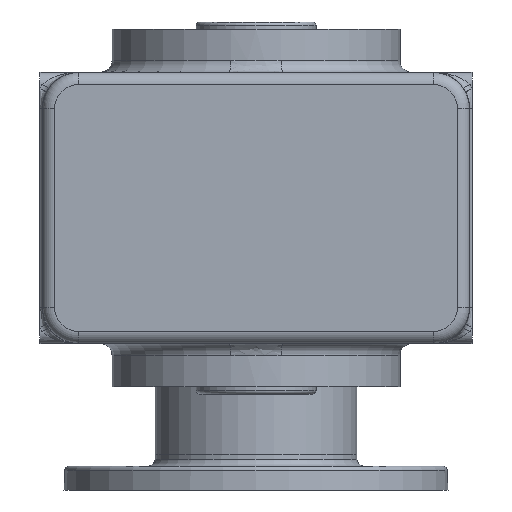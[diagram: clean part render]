
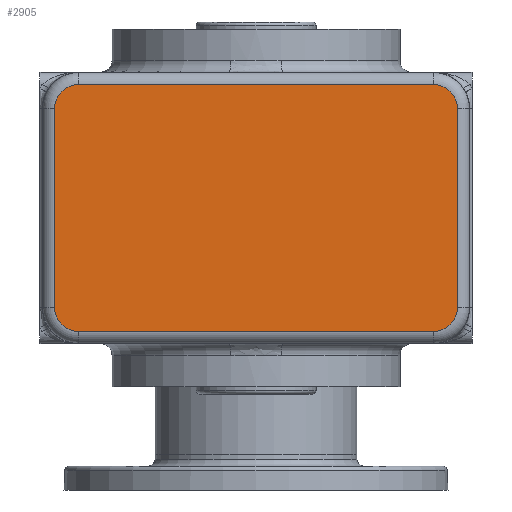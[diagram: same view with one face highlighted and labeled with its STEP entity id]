
A CAD part, front view. The second image highlights one B-rep face of the part: STEP entity #2905.
In plain terms, the highlighted planar face has unit normal (0, -1, 0).
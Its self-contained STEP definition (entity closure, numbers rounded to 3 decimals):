
#2864 = VERTEX_POINT ( 'NONE', #41360 ) ;
#2877 = EDGE_CURVE ( 'NONE', #2916, #2864, #41319, .T. ) ;
#2888 = VERTEX_POINT ( 'NONE', #41423 ) ;
#2905 = ADVANCED_FACE ( 'NONE', ( #41535 ), #41530, .T. ) ;
#2906 = EDGE_LOOP ( 'NONE', ( #2907, #2917, #2939, #2928, #2997, #2930, #2962, #3001 ) ) ;
#2907 = ORIENTED_EDGE ( 'NONE', *, *, #2908, .T. ) ;
#2908 = EDGE_CURVE ( 'NONE', #2909, #2916, #41517, .T. ) ;
#2909 = VERTEX_POINT ( 'NONE', #41510 ) ;
#2916 = VERTEX_POINT ( 'NONE', #41483 ) ;
#2917 = ORIENTED_EDGE ( 'NONE', *, *, #2877, .T. ) ;
#2925 = EDGE_CURVE ( 'NONE', #2947, #2909, #41603, .T. ) ;
#2927 = EDGE_CURVE ( 'NONE', #2941, #2888, #41589, .T. ) ;
#2928 = ORIENTED_EDGE ( 'NONE', *, *, #2927, .T. ) ;
#2930 = ORIENTED_EDGE ( 'NONE', *, *, #2931, .T. ) ;
#2931 = EDGE_CURVE ( 'NONE', #2948, #2932, #41578, .T. ) ;
#2932 = VERTEX_POINT ( 'NONE', #41569 ) ;
#2939 = ORIENTED_EDGE ( 'NONE', *, *, #2940, .T. ) ;
#2940 = EDGE_CURVE ( 'NONE', #2864, #2941, #41694, .T. ) ;
#2941 = VERTEX_POINT ( 'NONE', #41687 ) ;
#2946 = EDGE_CURVE ( 'NONE', #2932, #2947, #41678, .T. ) ;
#2947 = VERTEX_POINT ( 'NONE', #41660 ) ;
#2948 = VERTEX_POINT ( 'NONE', #41658 ) ;
#2962 = ORIENTED_EDGE ( 'NONE', *, *, #2946, .T. ) ;
#2963 = EDGE_CURVE ( 'NONE', #2888, #2948, #41782, .T. ) ;
#2997 = ORIENTED_EDGE ( 'NONE', *, *, #2963, .T. ) ;
#3001 = ORIENTED_EDGE ( 'NONE', *, *, #2925, .T. ) ;
#41319 = CIRCLE ( 'NONE', #41468, 9.904 ) ;
#41360 = CARTESIAN_POINT ( 'NONE',  ( 74., -80., 107.904 ) ) ;
#41423 = CARTESIAN_POINT ( 'NONE',  ( -83.904, -80., 98. ) ) ;
#41462 = DIRECTION ( 'NONE',  ( 0., 0., -1. ) ) ;
#41464 = DIRECTION ( 'NONE',  ( 0., -1., 0. ) ) ;
#41466 = CARTESIAN_POINT ( 'NONE',  ( 74., -80., 98. ) ) ;
#41468 = AXIS2_PLACEMENT_3D ( 'NONE', #41466, #41464, #41462 ) ;
#41483 = CARTESIAN_POINT ( 'NONE',  ( 83.904, -80., 98. ) ) ;
#41510 = CARTESIAN_POINT ( 'NONE',  ( 83.904, -80., 15. ) ) ;
#41512 = DIRECTION ( 'NONE',  ( 0., 0., 1. ) ) ;
#41514 = VECTOR ( 'NONE', #41512, 1000. ) ;
#41516 = CARTESIAN_POINT ( 'NONE',  ( 83.904, -80., 98. ) ) ;
#41517 = LINE ( 'NONE', #41516, #41514 ) ;
#41522 = DIRECTION ( 'NONE',  ( 0., 0., -1. ) ) ;
#41524 = DIRECTION ( 'NONE',  ( 0., -1., 0. ) ) ;
#41526 = CARTESIAN_POINT ( 'NONE',  ( -74., -80., 15. ) ) ;
#41528 = AXIS2_PLACEMENT_3D ( 'NONE', #41526, #41524, #41522 ) ;
#41530 = PLANE ( 'NONE',  #41528 ) ;
#41535 = FACE_OUTER_BOUND ( 'NONE', #2906, .T. ) ;
#41569 = CARTESIAN_POINT ( 'NONE',  ( -74., -80., 5.096 ) ) ;
#41571 = DIRECTION ( 'NONE',  ( 0., 0., -1. ) ) ;
#41573 = DIRECTION ( 'NONE',  ( 0., -1., 0. ) ) ;
#41575 = CARTESIAN_POINT ( 'NONE',  ( -74., -80., 15. ) ) ;
#41577 = AXIS2_PLACEMENT_3D ( 'NONE', #41575, #41573, #41571 ) ;
#41578 = CIRCLE ( 'NONE', #41577, 9.904 ) ;
#41582 = DIRECTION ( 'NONE',  ( 0., 0., -1. ) ) ;
#41584 = DIRECTION ( 'NONE',  ( 0., -1., 0. ) ) ;
#41586 = CARTESIAN_POINT ( 'NONE',  ( -74., -80., 98. ) ) ;
#41588 = AXIS2_PLACEMENT_3D ( 'NONE', #41586, #41584, #41582 ) ;
#41589 = CIRCLE ( 'NONE', #41588, 9.904 ) ;
#41595 = DIRECTION ( 'NONE',  ( 0., 0., -1. ) ) ;
#41597 = DIRECTION ( 'NONE',  ( 0., -1., 0. ) ) ;
#41599 = CARTESIAN_POINT ( 'NONE',  ( 74., -80., 15. ) ) ;
#41601 = AXIS2_PLACEMENT_3D ( 'NONE', #41599, #41597, #41595 ) ;
#41603 = CIRCLE ( 'NONE', #41601, 9.904 ) ;
#41658 = CARTESIAN_POINT ( 'NONE',  ( -83.904, -80., 15. ) ) ;
#41660 = CARTESIAN_POINT ( 'NONE',  ( 74., -80., 5.096 ) ) ;
#41662 = DIRECTION ( 'NONE',  ( 1., 0., 0. ) ) ;
#41664 = VECTOR ( 'NONE', #41662, 1000. ) ;
#41666 = CARTESIAN_POINT ( 'NONE',  ( 74., -80., 5.096 ) ) ;
#41678 = LINE ( 'NONE', #41666, #41664 ) ;
#41687 = CARTESIAN_POINT ( 'NONE',  ( -74., -80., 107.904 ) ) ;
#41689 = DIRECTION ( 'NONE',  ( -1., 0., 0. ) ) ;
#41690 = VECTOR ( 'NONE', #41689, 1000. ) ;
#41693 = CARTESIAN_POINT ( 'NONE',  ( -74., -80., 107.904 ) ) ;
#41694 = LINE ( 'NONE', #41693, #41690 ) ;
#41767 = DIRECTION ( 'NONE',  ( 0., 0., -1. ) ) ;
#41768 = VECTOR ( 'NONE', #41767, 1000. ) ;
#41770 = CARTESIAN_POINT ( 'NONE',  ( -83.904, -80., 15. ) ) ;
#41782 = LINE ( 'NONE', #41770, #41768 ) ;
